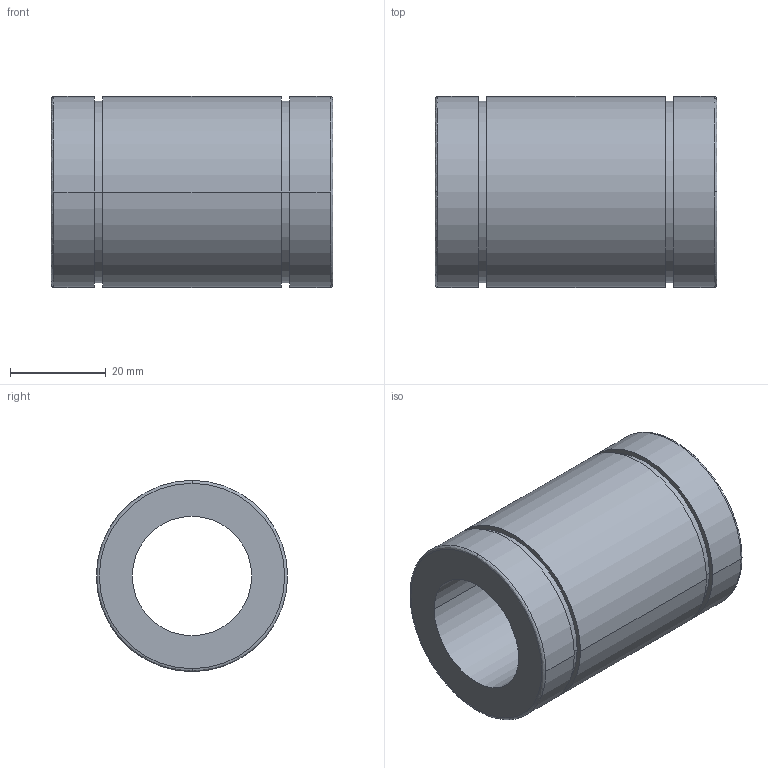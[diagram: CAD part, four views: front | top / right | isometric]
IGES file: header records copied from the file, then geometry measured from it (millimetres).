
Start section: 3D InterOp IGES (Version 21 0 1), Spatial Corp. Copyright (c) 1999-2007.
Global section: file name: N-25BUU.igs; native system: Spatial Corp.; preprocessor: 3D InterOp GENERIC/IGES 3.0; author: Noname; organization: Noname; date: 20220311.144938; units: millimetre
Bounding box: 59 x 40 x 40 mm (x, y, z)
Surface area: 13981.3 mm2 (no closed solid volume)
Topology: 0 solids, 0 shells, 22 faces, 100 edges, 100 vertices
Faces by surface type: revolution 16, extrusion 6
